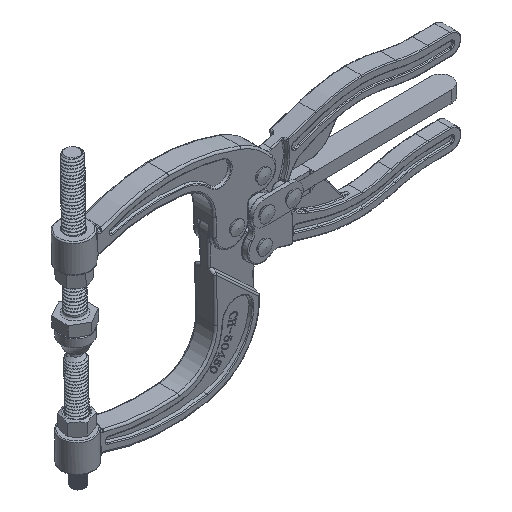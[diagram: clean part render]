
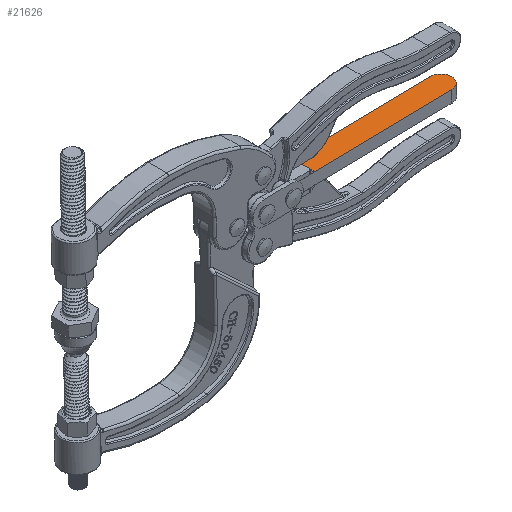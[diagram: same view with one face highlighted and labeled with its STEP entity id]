
A CAD part, isometric view. The second image highlights one B-rep face of the part: STEP entity #21626.
In plain terms, the highlighted planar face has unit normal (-0.019, 0, 1) as drawn and (0, -1, 0) by its records, which use the part's own axes.
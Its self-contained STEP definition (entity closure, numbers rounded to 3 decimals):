
#873=PLANE('',#23884);
#2047=FACE_OUTER_BOUND('',#3348,.T.);
#3348=EDGE_LOOP('',(#18211,#18212,#18213,#18214));
#4661=CIRCLE('',#23885,6.);
#6524=LINE('',#52814,#7902);
#6525=LINE('',#52816,#7903);
#6526=LINE('',#52817,#7904);
#7902=VECTOR('',#28649,1000.);
#7903=VECTOR('',#28650,1000.);
#7904=VECTOR('',#28651,1000.);
#9763=VERTEX_POINT('',#52810);
#9764=VERTEX_POINT('',#52811);
#9765=VERTEX_POINT('',#52813);
#9766=VERTEX_POINT('',#52815);
#12685=EDGE_CURVE('',#9763,#9764,#4661,.T.);
#12686=EDGE_CURVE('',#9765,#9764,#6524,.T.);
#12687=EDGE_CURVE('',#9766,#9765,#6525,.T.);
#12688=EDGE_CURVE('',#9766,#9763,#6526,.T.);
#18211=ORIENTED_EDGE('',*,*,#12685,.T.);
#18212=ORIENTED_EDGE('',*,*,#12686,.F.);
#18213=ORIENTED_EDGE('',*,*,#12687,.F.);
#18214=ORIENTED_EDGE('',*,*,#12688,.T.);
#21626=ADVANCED_FACE('',(#2047),#873,.T.);
#23884=AXIS2_PLACEMENT_3D('',#52809,#28645,#28646);
#23885=AXIS2_PLACEMENT_3D('',#52812,#28647,#28648);
#28645=DIRECTION('center_axis',(0.,-1.,0.));
#28646=DIRECTION('ref_axis',(0.,0.,-1.));
#28647=DIRECTION('center_axis',(0.,-1.,0.));
#28648=DIRECTION('ref_axis',(0.,0.,-1.));
#28649=DIRECTION('',(1.,0.,0.));
#28650=DIRECTION('',(0.,0.,1.));
#28651=DIRECTION('',(1.,0.,0.));
#52809=CARTESIAN_POINT('Origin',(95.2,-3.2,0.));
#52810=CARTESIAN_POINT('',(89.2,-3.2,0.));
#52811=CARTESIAN_POINT('',(89.2,-3.2,12.));
#52812=CARTESIAN_POINT('Origin',(89.2,-3.2,6.));
#52813=CARTESIAN_POINT('',(3.2,-3.2,12.));
#52814=CARTESIAN_POINT('',(95.2,-3.2,12.));
#52815=CARTESIAN_POINT('',(3.2,-3.2,0.));
#52816=CARTESIAN_POINT('',(3.2,-3.2,0.));
#52817=CARTESIAN_POINT('',(95.2,-3.2,0.));
